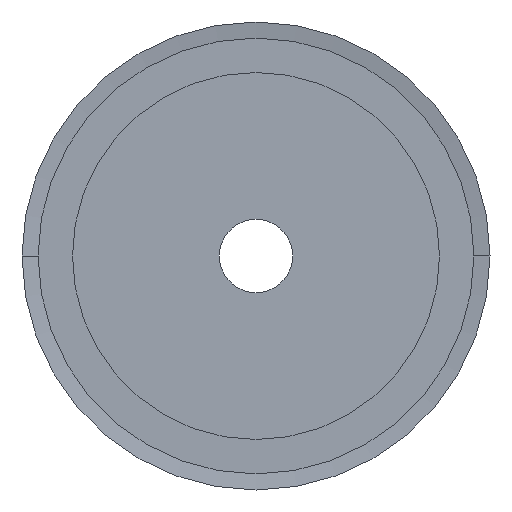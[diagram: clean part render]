
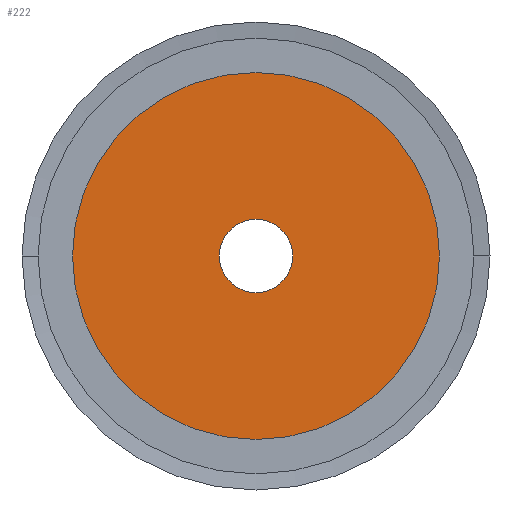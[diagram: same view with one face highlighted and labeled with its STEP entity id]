
A CAD part, left-side view. The second image highlights one B-rep face of the part: STEP entity #222.
In plain terms, the highlighted planar face has unit normal (-1, 0, 0).
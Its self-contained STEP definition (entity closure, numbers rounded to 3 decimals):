
#222 = ADVANCED_FACE( '', ( #524, #525 ), #526, .T. );
#524 = FACE_BOUND( '', #827, .T. );
#525 = FACE_OUTER_BOUND( '', #828, .T. );
#526 = PLANE( '', #829 );
#827 = EDGE_LOOP( '', ( #2097, #2098 ) );
#828 = EDGE_LOOP( '', ( #2099, #2100 ) );
#829 = AXIS2_PLACEMENT_3D( '', #2101, #2102, #2103 );
#2097 = ORIENTED_EDGE( '', *, *, #2513, .F. );
#2098 = ORIENTED_EDGE( '', *, *, #2119, .F. );
#2099 = ORIENTED_EDGE( '', *, *, #2107, .T. );
#2100 = ORIENTED_EDGE( '', *, *, #2518, .T. );
#2101 = CARTESIAN_POINT( '', ( 0., 12., 0. ) );
#2102 = DIRECTION( '', ( -1., 0., 0. ) );
#2103 = DIRECTION( '', ( 0., 1., 0. ) );
#2107 = EDGE_CURVE( '', #2520, #2524, #2526, .T. );
#2119 = EDGE_CURVE( '', #2548, #2544, #2550, .T. );
#2513 = EDGE_CURVE( '', #2544, #2548, #3202, .T. );
#2518 = EDGE_CURVE( '', #2524, #2520, #3207, .T. );
#2520 = VERTEX_POINT( '', #3209 );
#2524 = VERTEX_POINT( '', #3214 );
#2526 = CIRCLE( '', #3217, 20. );
#2544 = VERTEX_POINT( '', #3239 );
#2548 = VERTEX_POINT( '', #3244 );
#2550 = CIRCLE( '', #3247, 4. );
#3202 = CIRCLE( '', #4122, 4. );
#3207 = CIRCLE( '', #4127, 20. );
#3209 = CARTESIAN_POINT( '', ( 0., 20., 0. ) );
#3214 = CARTESIAN_POINT( '', ( 0., -20., 0. ) );
#3217 = AXIS2_PLACEMENT_3D( '', #4133, #4134, #4135 );
#3239 = CARTESIAN_POINT( '', ( 0., 4., 0. ) );
#3244 = CARTESIAN_POINT( '', ( 0., -4., 0. ) );
#3247 = AXIS2_PLACEMENT_3D( '', #4157, #4158, #4159 );
#4122 = AXIS2_PLACEMENT_3D( '', #4893, #4894, #4895 );
#4127 = AXIS2_PLACEMENT_3D( '', #4908, #4909, #4910 );
#4133 = CARTESIAN_POINT( '', ( 0., 0., 0. ) );
#4134 = DIRECTION( '', ( -1., 0., 0. ) );
#4135 = DIRECTION( '', ( 0., 1., 0. ) );
#4157 = CARTESIAN_POINT( '', ( 0., 0., 0. ) );
#4158 = DIRECTION( '', ( -1., 0., 0. ) );
#4159 = DIRECTION( '', ( 0., 1., 0. ) );
#4893 = CARTESIAN_POINT( '', ( 0., 0., 0. ) );
#4894 = DIRECTION( '', ( -1., 0., 0. ) );
#4895 = DIRECTION( '', ( 0., 1., 0. ) );
#4908 = CARTESIAN_POINT( '', ( 0., 0., 0. ) );
#4909 = DIRECTION( '', ( -1., 0., 0. ) );
#4910 = DIRECTION( '', ( 0., 1., 0. ) );
